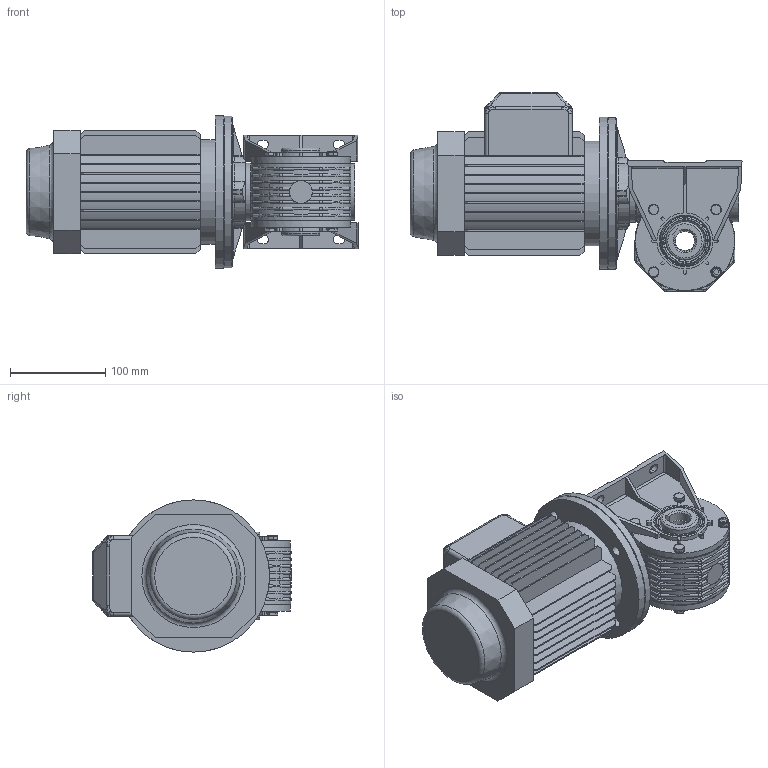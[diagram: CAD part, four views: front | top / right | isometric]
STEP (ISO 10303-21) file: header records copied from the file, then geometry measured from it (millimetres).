
FILE_DESCRIPTION((''),'2;1');
FILE_NAME('Y:\Archivi Inventor\Prog_01\GRAND_10\Figurini\mrv10 VECCHIO\MRV10 PAM71B5 p1.stp','2014-01-14T17:43:26',('tech3'),(''),'Autodesk Inventor 2013','Autodesk Inventor 2013','');
FILE_SCHEMA(('AUTOMOTIVE_DESIGN { 1 0 10303 214 1 1 1 1 }'));
Length unit declared in the file: millimetre
Products named in the file (16): MRV10 PAM71B5 F1; V10_PRIMARIO; carcassa mrv10 fig; corona MRV10-f22 fig; RCA_40x7; 40_52_8; Tappo 3_8 GAS_esagn_incsst; Guarnizione 3_8 GAS; DIN EN ISO 4762 M6 x 20; 0101029; DIN EN 24017 M6 x 16; 0101010; 0101028; 0101006; DIN EN ISO 4762 M6 x 16; motori B5 71
Assembly tree (28 placements, depth 3):
  MRV10 PAM71B5 F1
    V10_PRIMARIO
      carcassa mrv10 fig
      corona MRV10-f22 fig
      RCA_40x7
      40_52_8  x2
      Tappo 3_8 GAS_esagn_incsst
      Guarnizione 3_8 GAS
      DIN EN ISO 4762 M6 x 20
      0101029  x2
      DIN EN 24017 M6 x 16  x8
      0101010  x2
      0101028
    0101006
    DIN EN ISO 4762 M6 x 16  x4
    motori B5 71
Bounding box: 348.95 x 209 x 160 mm (x, y, z)
Volume: 3698904.8 mm3; surface area: 542613.2 mm2
Topology: 27 solids, 31 shells, 1944 faces, 4932 edges, 3158 vertices
Faces by surface type: plane 1112, cylinder 397, bspline 210, cone 118, torus 99, sphere 8
Full cylindrical faces by diameter (mm): 2 x2, 4.917 x12, 6 x17, 6.5 x20, 8 x1, 8.88 x8, 10 x9, 11 x8, 14 x1, 14.95 x1, 16.3 x1, 16.5 x1, 19.981 x2, 22 x2, 24 x1, 35 x1, 35.2 x1, 39.4 x2, 40 x11, 42.5 x1, 42.881 x2, 47.232 x2, 52 x4, 60 x3, 61 x1, 80 x2, 82 x6, 103.5 x2, 104 x2, 105 x1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
Entity records: 55127 total; most frequent: CARTESIAN_POINT 16023, ORIENTED_EDGE 8124, DIRECTION 7348, EDGE_CURVE 4062, VERTEX_POINT 2698, AXIS2_PLACEMENT_3D 2484, VECTOR 2380, LINE 2380
